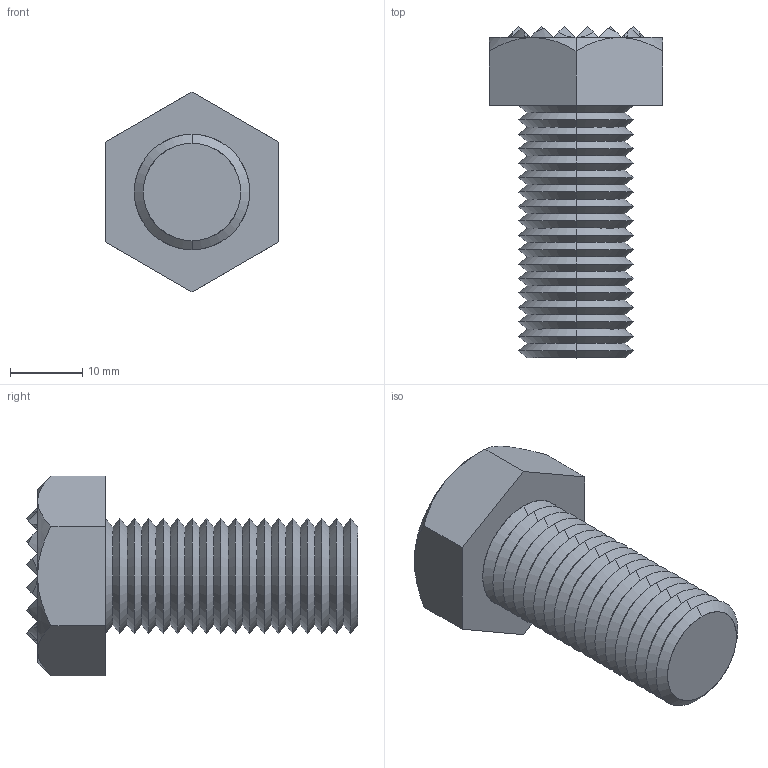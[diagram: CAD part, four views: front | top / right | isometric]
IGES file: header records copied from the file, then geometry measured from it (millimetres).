
Start section: SolidWorks IGES file using analytic representation for surfaces
Global section: file name: C:\Documents and Settings\IANO\Desktop\Temp File\Process pending\NEW\35400_v2\35400_v2_20170704_IGES\35400.W0011.igs; native system: SolidWorks 2009; preprocessor: SolidWorks 2009; author: IANO; date: 170703.082217; units: millimetre
Bounding box: 24 x 46 x 27.71 mm (x, y, z)
Surface area: 4411.7 mm2 (no closed solid volume)
Topology: 0 solids, 0 shells, 234 faces, 1073 edges, 1073 vertices
Faces by surface type: bspline 137, revolution 97
